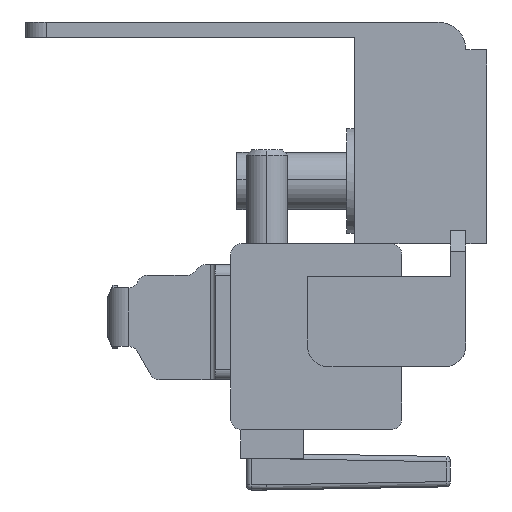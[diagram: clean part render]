
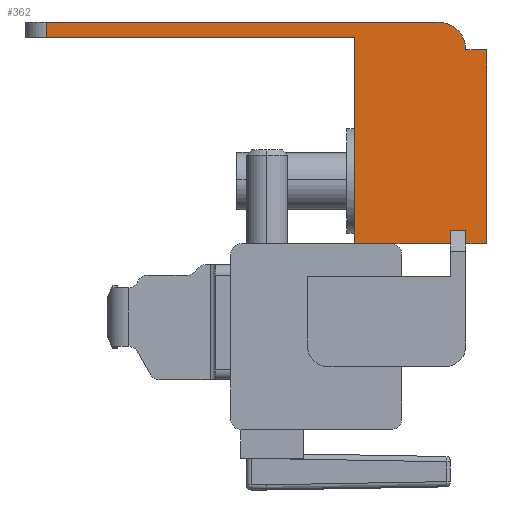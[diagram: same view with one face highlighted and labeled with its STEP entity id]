
A CAD part, left-side view. The second image highlights one B-rep face of the part: STEP entity #362.
In plain terms, the highlighted planar face has unit normal (-1, 0, 0).
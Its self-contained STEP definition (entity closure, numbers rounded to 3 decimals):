
#96 = CARTESIAN_POINT ( 'NONE',  ( -193.1, -28.333, -1.651 ) ) ;
#250 = LINE ( 'NONE', #2907, #4607 ) ;
#256 = EDGE_CURVE ( 'NONE', #2124, #1338, #2065, .T. ) ;
#275 = AXIS2_PLACEMENT_3D ( 'NONE', #5023, #2792, #5505 ) ;
#362 = ADVANCED_FACE ( 'NONE', ( #3838 ), #2112, .F. ) ;
#405 = EDGE_CURVE ( 'NONE', #5378, #671, #1609, .T. ) ;
#416 = DIRECTION ( 'NONE',  ( 0., 1., 0. ) ) ;
#594 = ORIENTED_EDGE ( 'NONE', *, *, #3513, .T. ) ;
#671 = VERTEX_POINT ( 'NONE', #3495 ) ;
#686 = EDGE_CURVE ( 'NONE', #1797, #3480, #1133, .T. ) ;
#872 = ORIENTED_EDGE ( 'NONE', *, *, #3118, .T. ) ;
#923 = CARTESIAN_POINT ( 'NONE',  ( -193.1, -28.333, 16.879 ) ) ;
#924 = AXIS2_PLACEMENT_3D ( 'NONE', #1415, #4359, #1840 ) ;
#944 = VECTOR ( 'NONE', #1433, 1000. ) ;
#1033 = LINE ( 'NONE', #4877, #2018 ) ;
#1126 = ORIENTED_EDGE ( 'NONE', *, *, #256, .F. ) ;
#1133 = LINE ( 'NONE', #1292, #2266 ) ;
#1134 = VERTEX_POINT ( 'NONE', #923 ) ;
#1216 = VERTEX_POINT ( 'NONE', #4954 ) ;
#1282 = CARTESIAN_POINT ( 'NONE',  ( -193.1, -30.333, 16.879 ) ) ;
#1292 = CARTESIAN_POINT ( 'NONE',  ( -193.1, 14.667, 19.549 ) ) ;
#1297 = CIRCLE ( 'NONE', #924, 2.67 ) ;
#1338 = VERTEX_POINT ( 'NONE', #4104 ) ;
#1356 = EDGE_CURVE ( 'NONE', #1216, #5462, #1933, .T. ) ;
#1358 = LINE ( 'NONE', #2768, #3461 ) ;
#1366 = CARTESIAN_POINT ( 'NONE',  ( -193.1, -26.863, -0.361 ) ) ;
#1415 = CARTESIAN_POINT ( 'NONE',  ( -193.1, -25.663, 16.879 ) ) ;
#1433 = DIRECTION ( 'NONE',  ( 0., 1., 0. ) ) ;
#1435 = DIRECTION ( 'NONE',  ( 0., 0., -1. ) ) ;
#1471 = CARTESIAN_POINT ( 'NONE',  ( -193.1, -28.333, -0.361 ) ) ;
#1488 = VECTOR ( 'NONE', #1572, 1000. ) ;
#1572 = DIRECTION ( 'NONE',  ( 0., 0., 1. ) ) ;
#1576 = VERTEX_POINT ( 'NONE', #2106 ) ;
#1609 = LINE ( 'NONE', #2400, #1488 ) ;
#1664 = CARTESIAN_POINT ( 'NONE',  ( -193.1, -30.333, -1.651 ) ) ;
#1694 = ORIENTED_EDGE ( 'NONE', *, *, #5343, .T. ) ;
#1718 = DIRECTION ( 'NONE',  ( 0., 1., 0. ) ) ;
#1733 = VERTEX_POINT ( 'NONE', #5465 ) ;
#1797 = VERTEX_POINT ( 'NONE', #1798 ) ;
#1798 = CARTESIAN_POINT ( 'NONE',  ( -193.1, 11.767, 19.549 ) ) ;
#1840 = DIRECTION ( 'NONE',  ( 0., 0., -1. ) ) ;
#1933 = LINE ( 'NONE', #1664, #4033 ) ;
#2018 = VECTOR ( 'NONE', #4448, 1000. ) ;
#2065 = LINE ( 'NONE', #1366, #944 ) ;
#2106 = CARTESIAN_POINT ( 'NONE',  ( -193.1, -26.863, -1.651 ) ) ;
#2112 = PLANE ( 'NONE',  #275 ) ;
#2124 = VERTEX_POINT ( 'NONE', #1471 ) ;
#2212 = CARTESIAN_POINT ( 'NONE',  ( -193.1, -25.663, 19.549 ) ) ;
#2221 = CARTESIAN_POINT ( 'NONE',  ( -193.1, -28.333, -1.651 ) ) ;
#2266 = VECTOR ( 'NONE', #5150, 1000. ) ;
#2400 = CARTESIAN_POINT ( 'NONE',  ( -193.1, -17.713, -1.651 ) ) ;
#2437 = EDGE_LOOP ( 'NONE', ( #5256, #872, #2720, #1126, #5323, #3399, #4791, #1694, #594, #4431, #2931, #4858 ) ) ;
#2467 = VECTOR ( 'NONE', #1718, 1000. ) ;
#2664 = CARTESIAN_POINT ( 'NONE',  ( -193.1, -30.333, 16.879 ) ) ;
#2720 = ORIENTED_EDGE ( 'NONE', *, *, #4733, .F. ) ;
#2762 = EDGE_CURVE ( 'NONE', #671, #1733, #250, .T. ) ;
#2768 = CARTESIAN_POINT ( 'NONE',  ( -193.1, -26.863, -1.651 ) ) ;
#2792 = DIRECTION ( 'NONE',  ( 1., 0., 0. ) ) ;
#2797 = VECTOR ( 'NONE', #3874, 1000. ) ;
#2907 = CARTESIAN_POINT ( 'NONE',  ( -193.1, -29.063, 18.079 ) ) ;
#2918 = EDGE_CURVE ( 'NONE', #1797, #1733, #5224, .T. ) ;
#2931 = ORIENTED_EDGE ( 'NONE', *, *, #2918, .T. ) ;
#3118 = EDGE_CURVE ( 'NONE', #5378, #1576, #1033, .T. ) ;
#3136 = VECTOR ( 'NONE', #1435, 1000. ) ;
#3215 = VECTOR ( 'NONE', #4736, 1000. ) ;
#3399 = ORIENTED_EDGE ( 'NONE', *, *, #1356, .F. ) ;
#3461 = VECTOR ( 'NONE', #5338, 1000. ) ;
#3480 = VERTEX_POINT ( 'NONE', #2212 ) ;
#3495 = CARTESIAN_POINT ( 'NONE',  ( -193.1, -17.713, 18.079 ) ) ;
#3513 = EDGE_CURVE ( 'NONE', #1134, #3480, #1297, .T. ) ;
#3729 = LINE ( 'NONE', #1282, #2467 ) ;
#3838 = FACE_OUTER_BOUND ( 'NONE', #2437, .T. ) ;
#3874 = DIRECTION ( 'NONE',  ( 0., 0., -1. ) ) ;
#3988 = DIRECTION ( 'NONE',  ( 0., 1., 0. ) ) ;
#4022 = CARTESIAN_POINT ( 'NONE',  ( -193.1, -30.333, 16.879 ) ) ;
#4033 = VECTOR ( 'NONE', #3988, 1000. ) ;
#4104 = CARTESIAN_POINT ( 'NONE',  ( -193.1, -26.863, -0.361 ) ) ;
#4201 = LINE ( 'NONE', #96, #3215 ) ;
#4238 = VERTEX_POINT ( 'NONE', #4022 ) ;
#4251 = CARTESIAN_POINT ( 'NONE',  ( -193.1, -17.713, -1.651 ) ) ;
#4256 = LINE ( 'NONE', #2664, #3136 ) ;
#4359 = DIRECTION ( 'NONE',  ( -1., 0., 0. ) ) ;
#4431 = ORIENTED_EDGE ( 'NONE', *, *, #686, .F. ) ;
#4448 = DIRECTION ( 'NONE',  ( 0., -1., 0. ) ) ;
#4572 = EDGE_CURVE ( 'NONE', #4238, #1216, #4256, .T. ) ;
#4607 = VECTOR ( 'NONE', #416, 1000. ) ;
#4733 = EDGE_CURVE ( 'NONE', #1338, #1576, #1358, .T. ) ;
#4736 = DIRECTION ( 'NONE',  ( 0., 0., 1. ) ) ;
#4751 = CARTESIAN_POINT ( 'NONE',  ( -193.1, 11.767, 17.779 ) ) ;
#4791 = ORIENTED_EDGE ( 'NONE', *, *, #4572, .F. ) ;
#4858 = ORIENTED_EDGE ( 'NONE', *, *, #2762, .F. ) ;
#4877 = CARTESIAN_POINT ( 'NONE',  ( -193.1, -17.713, -1.651 ) ) ;
#4954 = CARTESIAN_POINT ( 'NONE',  ( -193.1, -30.333, -1.651 ) ) ;
#5023 = CARTESIAN_POINT ( 'NONE',  ( -193.1, -29.063, 15.779 ) ) ;
#5150 = DIRECTION ( 'NONE',  ( 0., -1., 0. ) ) ;
#5224 = LINE ( 'NONE', #4751, #2797 ) ;
#5256 = ORIENTED_EDGE ( 'NONE', *, *, #405, .F. ) ;
#5323 = ORIENTED_EDGE ( 'NONE', *, *, #5431, .F. ) ;
#5338 = DIRECTION ( 'NONE',  ( 0., 0., -1. ) ) ;
#5343 = EDGE_CURVE ( 'NONE', #4238, #1134, #3729, .T. ) ;
#5378 = VERTEX_POINT ( 'NONE', #4251 ) ;
#5431 = EDGE_CURVE ( 'NONE', #5462, #2124, #4201, .T. ) ;
#5462 = VERTEX_POINT ( 'NONE', #2221 ) ;
#5465 = CARTESIAN_POINT ( 'NONE',  ( -193.1, 11.767, 18.079 ) ) ;
#5505 = DIRECTION ( 'NONE',  ( 0., 1., 0. ) ) ;
